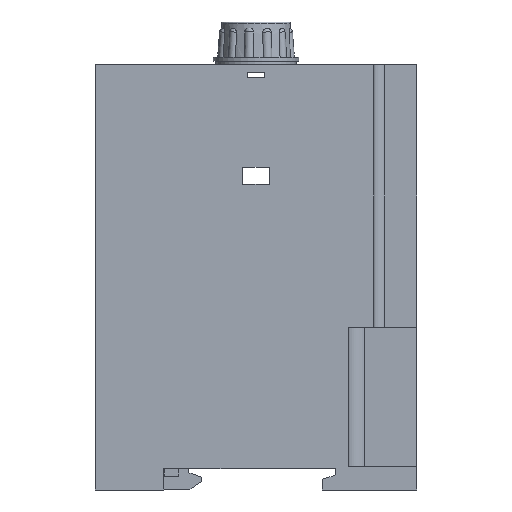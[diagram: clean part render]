
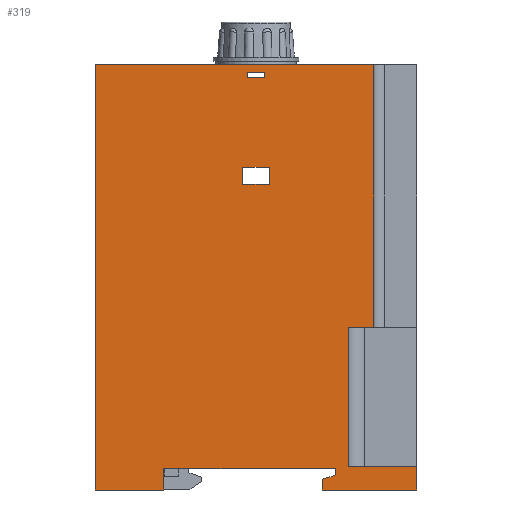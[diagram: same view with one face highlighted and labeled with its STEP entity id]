
A CAD part, left-side view. The second image highlights one B-rep face of the part: STEP entity #319.
In plain terms, the highlighted planar face has unit normal (-1, 0, 0).
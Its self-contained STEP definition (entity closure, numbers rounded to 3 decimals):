
#319=ADVANCED_FACE('',(#27417,#27419,#27421),#27423,.T.);
#27417=FACE_BOUND('',#27418,.T.);
#27418=EDGE_LOOP('',(#57334,#57335,#57336,#57337,#57338,#57339,#57340,#57341,#57342,
#57343,#57344,#57345,#57346,#57347));
#27419=FACE_BOUND('',#27420,.T.);
#27420=EDGE_LOOP('',(#57348,#57349,#57350,#57351));
#27421=FACE_BOUND('',#27422,.T.);
#27422=EDGE_LOOP('',(#57352,#57353,#57354,#57355));
#27423=PLANE('',#27424);
#27424=AXIS2_PLACEMENT_3D('',#27425,#27426,#27427);
#27425=CARTESIAN_POINT('',(-45.,0.,0.));
#27426=DIRECTION('',(-1.,0.,0.));
#27427=DIRECTION('',(0.,-1.,0.));
#57334=ORIENTED_EDGE('',*,*,#73585,.T.);
#57335=ORIENTED_EDGE('',*,*,#73586,.T.);
#57336=ORIENTED_EDGE('',*,*,#73510,.T.);
#57337=ORIENTED_EDGE('',*,*,#73587,.T.);
#57338=ORIENTED_EDGE('',*,*,#73588,.T.);
#57339=ORIENTED_EDGE('',*,*,#73589,.T.);
#57340=ORIENTED_EDGE('',*,*,#73503,.T.);
#57341=ORIENTED_EDGE('',*,*,#71923,.F.);
#57342=ORIENTED_EDGE('',*,*,#73562,.F.);
#57343=ORIENTED_EDGE('',*,*,#73590,.T.);
#57344=ORIENTED_EDGE('',*,*,#73591,.T.);
#57345=ORIENTED_EDGE('',*,*,#73592,.T.);
#57346=ORIENTED_EDGE('',*,*,#73593,.T.);
#57347=ORIENTED_EDGE('',*,*,#73594,.T.);
#57348=ORIENTED_EDGE('',*,*,#73595,.T.);
#57349=ORIENTED_EDGE('',*,*,#73596,.T.);
#57350=ORIENTED_EDGE('',*,*,#73597,.T.);
#57351=ORIENTED_EDGE('',*,*,#73598,.T.);
#57352=ORIENTED_EDGE('',*,*,#73599,.T.);
#57353=ORIENTED_EDGE('',*,*,#73600,.T.);
#57354=ORIENTED_EDGE('',*,*,#73601,.T.);
#57355=ORIENTED_EDGE('',*,*,#73602,.T.);
#71923=EDGE_CURVE('',#80069,#80052,#80071,.T.);
#73503=EDGE_CURVE('',#83226,#80052,#83230,.F.);
#73510=EDGE_CURVE('',#83242,#83240,#83243,.T.);
#73562=EDGE_CURVE('',#83339,#80069,#83341,.T.);
#73585=EDGE_CURVE('',#83384,#83385,#83386,.F.);
#73586=EDGE_CURVE('',#83385,#83242,#83387,.T.);
#73587=EDGE_CURVE('',#83240,#83388,#83389,.T.);
#73588=EDGE_CURVE('',#83388,#83390,#83391,.F.);
#73589=EDGE_CURVE('',#83390,#83226,#83392,.F.);
#73590=EDGE_CURVE('',#83339,#83393,#83394,.T.);
#73591=EDGE_CURVE('',#83393,#83395,#83396,.F.);
#73592=EDGE_CURVE('',#83395,#83397,#83398,.T.);
#73593=EDGE_CURVE('',#83397,#83399,#83400,.F.);
#73594=EDGE_CURVE('',#83399,#83384,#83401,.F.);
#73595=EDGE_CURVE('',#83402,#83403,#83404,.F.);
#73596=EDGE_CURVE('',#83403,#83405,#83406,.F.);
#73597=EDGE_CURVE('',#83405,#83407,#83408,.F.);
#73598=EDGE_CURVE('',#83407,#83402,#83409,.F.);
#73599=EDGE_CURVE('',#83410,#83411,#83412,.F.);
#73600=EDGE_CURVE('',#83411,#83413,#83414,.F.);
#73601=EDGE_CURVE('',#83413,#83415,#83416,.F.);
#73602=EDGE_CURVE('',#83415,#83410,#83417,.F.);
#80052=VERTEX_POINT('',#93512);
#80069=VERTEX_POINT('',#93547);
#80071=LINE('',#93551,#93552);
#83226=VERTEX_POINT('',#101069);
#83230=LINE('',#101077,#101078);
#83240=VERTEX_POINT('',#101100);
#83242=VERTEX_POINT('',#101104);
#83243=LINE('',#101105,#101106);
#83339=VERTEX_POINT('',#101304);
#83341=LINE('',#101308,#101309);
#83384=VERTEX_POINT('',#101397);
#83385=VERTEX_POINT('',#101398);
#83386=LINE('',#101399,#101400);
#83387=LINE('',#101402,#101403);
#83388=VERTEX_POINT('',#101405);
#83389=LINE('',#101406,#101407);
#83390=VERTEX_POINT('',#101409);
#83391=LINE('',#101410,#101411);
#83392=LINE('',#101413,#101414);
#83393=VERTEX_POINT('',#101416);
#83394=LINE('',#101417,#101418);
#83395=VERTEX_POINT('',#101420);
#83396=LINE('',#101421,#101422);
#83397=VERTEX_POINT('',#101424);
#83398=LINE('',#101425,#101426);
#83399=VERTEX_POINT('',#101428);
#83400=LINE('',#101429,#101430);
#83401=LINE('',#101432,#101433);
#83402=VERTEX_POINT('',#101435);
#83403=VERTEX_POINT('',#101436);
#83404=LINE('',#101437,#101438);
#83405=VERTEX_POINT('',#101440);
#83406=LINE('',#101441,#101442);
#83407=VERTEX_POINT('',#101444);
#83408=LINE('',#101445,#101446);
#83409=LINE('',#101448,#101449);
#83410=VERTEX_POINT('',#101451);
#83411=VERTEX_POINT('',#101452);
#83412=LINE('',#101453,#101454);
#83413=VERTEX_POINT('',#101456);
#83414=LINE('',#101457,#101458);
#83415=VERTEX_POINT('',#101460);
#83416=LINE('',#101461,#101462);
#83417=LINE('',#101464,#101465);
#93512=CARTESIAN_POINT('',(-45.,-65.,99.2));
#93547=CARTESIAN_POINT('',(-45.,0.,99.2));
#93551=CARTESIAN_POINT('',(-45.,0.,99.2));
#93552=VECTOR('',#93553,1.);
#93553=DIRECTION('',(0.,-1.,0.));
#101069=CARTESIAN_POINT('',(-45.,-65.,38.));
#101077=CARTESIAN_POINT('',(-45.,-65.,99.2));
#101078=VECTOR('',#101079,1.);
#101079=DIRECTION('',(0.,0.,-1.));
#101100=CARTESIAN_POINT('',(-45.,-75.,5.5));
#101104=CARTESIAN_POINT('',(-45.,-75.,0.));
#101105=CARTESIAN_POINT('',(-45.,-75.,0.));
#101106=VECTOR('',#101107,1.);
#101107=DIRECTION('',(0.,0.,1.));
#101304=CARTESIAN_POINT('',(-45.,0.,0.));
#101308=CARTESIAN_POINT('',(-45.,0.,0.));
#101309=VECTOR('',#101310,1.);
#101310=DIRECTION('',(0.,0.,1.));
#101397=CARTESIAN_POINT('',(-45.,-53.,2.505));
#101398=CARTESIAN_POINT('',(-45.,-53.,0.));
#101399=CARTESIAN_POINT('',(-45.,-53.,0.));
#101400=VECTOR('',#101401,1.);
#101401=DIRECTION('',(0.,0.,1.));
#101402=CARTESIAN_POINT('',(-45.,-53.,0.));
#101403=VECTOR('',#101404,1.);
#101404=DIRECTION('',(0.,-1.,0.));
#101405=CARTESIAN_POINT('',(-45.,-59.,5.5));
#101406=CARTESIAN_POINT('',(-45.,-75.,5.5));
#101407=VECTOR('',#101408,1.);
#101408=DIRECTION('',(0.,1.,0.));
#101409=CARTESIAN_POINT('',(-45.,-59.,38.));
#101410=CARTESIAN_POINT('',(-45.,-59.,38.));
#101411=VECTOR('',#101412,1.);
#101412=DIRECTION('',(0.,0.,-1.));
#101413=CARTESIAN_POINT('',(-45.,-65.,38.));
#101414=VECTOR('',#101415,1.);
#101415=DIRECTION('',(0.,1.,0.));
#101416=CARTESIAN_POINT('',(-45.,-16.,0.));
#101417=CARTESIAN_POINT('',(-45.,0.,0.));
#101418=VECTOR('',#101419,1.);
#101419=DIRECTION('',(0.,-1.,0.));
#101420=CARTESIAN_POINT('',(-45.,-16.,5.005));
#101421=CARTESIAN_POINT('',(-45.,-16.,5.005));
#101422=VECTOR('',#101423,1.);
#101423=DIRECTION('',(0.,0.,-1.));
#101424=CARTESIAN_POINT('',(-45.,-56.,5.005));
#101425=CARTESIAN_POINT('',(-45.,-16.,5.005));
#101426=VECTOR('',#101427,1.);
#101427=DIRECTION('',(0.,-1.,0.));
#101428=CARTESIAN_POINT('',(-45.,-56.,3.505));
#101429=CARTESIAN_POINT('',(-45.,-56.,3.505));
#101430=VECTOR('',#101431,1.);
#101431=DIRECTION('',(0.,0.,1.));
#101432=CARTESIAN_POINT('',(-45.,-53.,2.505));
#101433=VECTOR('',#101434,1.);
#101434=DIRECTION('',(0.,-0.949,0.316));
#101435=CARTESIAN_POINT('',(-45.,-40.6,75.3));
#101436=CARTESIAN_POINT('',(-45.,-40.6,71.3));
#101437=CARTESIAN_POINT('',(-45.,-40.6,71.3));
#101438=VECTOR('',#101439,1.);
#101439=DIRECTION('',(0.,0.,1.));
#101440=CARTESIAN_POINT('',(-45.,-34.4,71.3));
#101441=CARTESIAN_POINT('',(-45.,-34.4,71.3));
#101442=VECTOR('',#101443,1.);
#101443=DIRECTION('',(0.,-1.,0.));
#101444=CARTESIAN_POINT('',(-45.,-34.4,75.3));
#101445=CARTESIAN_POINT('',(-45.,-34.4,75.3));
#101446=VECTOR('',#101447,1.);
#101447=DIRECTION('',(0.,0.,-1.));
#101448=CARTESIAN_POINT('',(-45.,-40.6,75.3));
#101449=VECTOR('',#101450,1.);
#101450=DIRECTION('',(0.,1.,0.));
#101451=CARTESIAN_POINT('',(-45.,-39.5,96.2));
#101452=CARTESIAN_POINT('',(-45.,-35.5,96.2));
#101453=CARTESIAN_POINT('',(-45.,-35.5,96.2));
#101454=VECTOR('',#101455,1.);
#101455=DIRECTION('',(0.,-1.,0.));
#101456=CARTESIAN_POINT('',(-45.,-35.5,97.4));
#101457=CARTESIAN_POINT('',(-45.,-35.5,97.4));
#101458=VECTOR('',#101459,1.);
#101459=DIRECTION('',(0.,0.,-1.));
#101460=CARTESIAN_POINT('',(-45.,-39.5,97.4));
#101461=CARTESIAN_POINT('',(-45.,-39.5,97.4));
#101462=VECTOR('',#101463,1.);
#101463=DIRECTION('',(0.,1.,0.));
#101464=CARTESIAN_POINT('',(-45.,-39.5,96.2));
#101465=VECTOR('',#101466,1.);
#101466=DIRECTION('',(0.,0.,1.));
